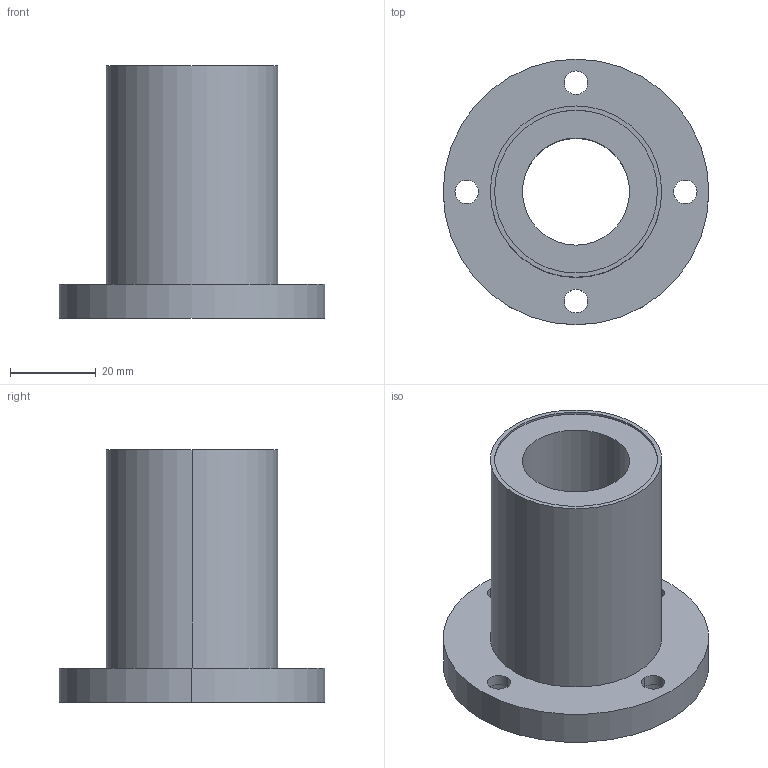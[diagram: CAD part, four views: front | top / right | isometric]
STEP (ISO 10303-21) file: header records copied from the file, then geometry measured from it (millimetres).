
FILE_DESCRIPTION((''),'2;1');
FILE_NAME('C:\Documents and Settings\ｿﾀﾀ蠑ｷ1\ｹﾙﾅﾁ ﾈｭｸ饅\ｺﾎﾇｰﾆﾄﾀﾏ\ﾁｦﾇｰ\LMF__UU\LMF25UU.stp','2005-06-15T09:38:00',('ｿﾀﾀ蠑ｷ1'),(''),'Autodesk Inventor 9','Autodesk Inventor 9','');
FILE_SCHEMA(('AUTOMOTIVE_DESIGN { 1 0 10303 214 1 1 1 1 }'));
Length unit declared in the file: millimetre
Products named in the file (1): LMF__
Bounding box: 62 x 62 x 59 mm (x, y, z)
Volume: 56757 mm3; surface area: 18338.4 mm2
Topology: 1 solids, 1 shells, 38 faces, 84 edges, 56 vertices
Faces by surface type: cylinder 28, plane 10
Entity records: 1127 total; most frequent: DIRECTION 218, CARTESIAN_POINT 179, ORIENTED_EDGE 168, AXIS2_PLACEMENT_3D 95, EDGE_CURVE 84, VERTEX_POINT 56, CIRCLE 56, EDGE_LOOP 56
